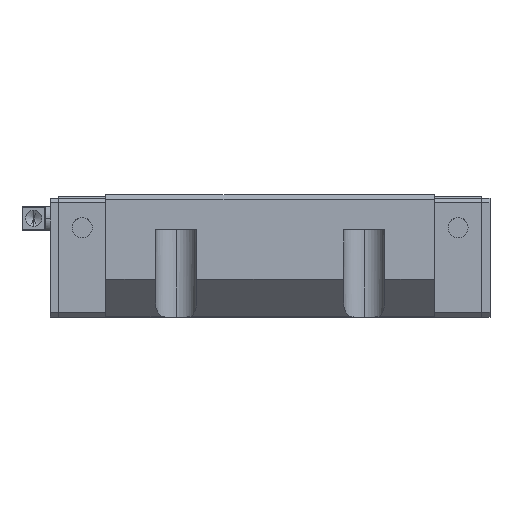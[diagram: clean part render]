
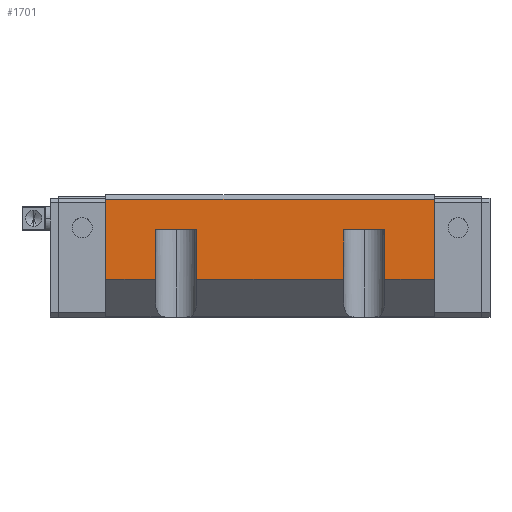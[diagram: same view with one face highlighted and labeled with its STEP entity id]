
A CAD part, top view. The second image highlights one B-rep face of the part: STEP entity #1701.
In plain terms, the highlighted planar face has unit normal (0, 0, 1).
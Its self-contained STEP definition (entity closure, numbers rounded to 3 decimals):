
#120 = CARTESIAN_POINT ( 'NONE',  ( 48.75, 7., 60. ) ) ;
#132 = CARTESIAN_POINT ( 'NONE',  ( -69.9, 20., 60. ) ) ;
#134 = DIRECTION ( 'NONE',  ( -1., 0., 0. ) ) ;
#207 = VERTEX_POINT ( 'NONE', #3703 ) ;
#251 = ORIENTED_EDGE ( 'NONE', *, *, #3471, .F. ) ;
#336 = CARTESIAN_POINT ( 'NONE',  ( 31.25, 7., 60. ) ) ;
#377 = VERTEX_POINT ( 'NONE', #336 ) ;
#474 = DIRECTION ( 'NONE',  ( 1., 0., 0. ) ) ;
#475 = CARTESIAN_POINT ( 'NONE',  ( 69.9, 20., 60. ) ) ;
#592 = EDGE_CURVE ( 'NONE', #2432, #6308, #1208, .T. ) ;
#656 = VERTEX_POINT ( 'NONE', #2377 ) ;
#671 = EDGE_CURVE ( 'NONE', #656, #3894, #3829, .T. ) ;
#767 = DIRECTION ( 'NONE',  ( 1., 0., 0. ) ) ;
#796 = EDGE_LOOP ( 'NONE', ( #6931, #3309, #3995, #5323, #4552, #1320, #6194, #6846, #1755, #251, #1888, #815 ) ) ;
#815 = ORIENTED_EDGE ( 'NONE', *, *, #2695, .T. ) ;
#1034 = PLANE ( 'NONE',  #4634 ) ;
#1208 = LINE ( 'NONE', #4949, #8024 ) ;
#1270 = CARTESIAN_POINT ( 'NONE',  ( -48.75, -14., 60. ) ) ;
#1291 = CARTESIAN_POINT ( 'NONE',  ( 69.9, -14., 60. ) ) ;
#1320 = ORIENTED_EDGE ( 'NONE', *, *, #6301, .T. ) ;
#1393 = LINE ( 'NONE', #4321, #1778 ) ;
#1701 = ADVANCED_FACE ( 'NONE', ( #8341 ), #1034, .T. ) ;
#1755 = ORIENTED_EDGE ( 'NONE', *, *, #671, .F. ) ;
#1778 = VECTOR ( 'NONE', #3604, 1000. ) ;
#1888 = ORIENTED_EDGE ( 'NONE', *, *, #592, .T. ) ;
#2201 = LINE ( 'NONE', #6589, #2565 ) ;
#2331 = EDGE_CURVE ( 'NONE', #8834, #3954, #7353, .T. ) ;
#2374 = EDGE_CURVE ( 'NONE', #4406, #4380, #2201, .T. ) ;
#2377 = CARTESIAN_POINT ( 'NONE',  ( -31.25, 7., 60. ) ) ;
#2432 = VERTEX_POINT ( 'NONE', #3066 ) ;
#2565 = VECTOR ( 'NONE', #767, 1000. ) ;
#2635 = LINE ( 'NONE', #4758, #7102 ) ;
#2684 = LINE ( 'NONE', #7117, #4562 ) ;
#2691 = LINE ( 'NONE', #3612, #3905 ) ;
#2695 = EDGE_CURVE ( 'NONE', #6308, #377, #8016, .T. ) ;
#2848 = CARTESIAN_POINT ( 'NONE',  ( -69.9, -14., 60. ) ) ;
#2964 = LINE ( 'NONE', #5186, #7336 ) ;
#3054 = DIRECTION ( 'NONE',  ( 0., 0., 1. ) ) ;
#3066 = CARTESIAN_POINT ( 'NONE',  ( -31.25, -14., 60. ) ) ;
#3190 = VECTOR ( 'NONE', #4271, 1000. ) ;
#3212 = EDGE_CURVE ( 'NONE', #207, #377, #9010, .T. ) ;
#3309 = ORIENTED_EDGE ( 'NONE', *, *, #6226, .F. ) ;
#3388 = CARTESIAN_POINT ( 'NONE',  ( -69.9, 20., 60. ) ) ;
#3471 = EDGE_CURVE ( 'NONE', #2432, #656, #2691, .T. ) ;
#3604 = DIRECTION ( 'NONE',  ( 0., 1., 0. ) ) ;
#3612 = CARTESIAN_POINT ( 'NONE',  ( -31.25, -14., 60. ) ) ;
#3684 = DIRECTION ( 'NONE',  ( 0., 1., 0. ) ) ;
#3703 = CARTESIAN_POINT ( 'NONE',  ( 48.75, 7., 60. ) ) ;
#3704 = LINE ( 'NONE', #7451, #8795 ) ;
#3829 = LINE ( 'NONE', #6760, #6218 ) ;
#3894 = VERTEX_POINT ( 'NONE', #8512 ) ;
#3905 = VECTOR ( 'NONE', #7845, 1000. ) ;
#3944 = CARTESIAN_POINT ( 'NONE',  ( 31.25, -14., 60. ) ) ;
#3954 = VERTEX_POINT ( 'NONE', #1291 ) ;
#3995 = ORIENTED_EDGE ( 'NONE', *, *, #2331, .T. ) ;
#4257 = CARTESIAN_POINT ( 'NONE',  ( 31.25, -14., 60. ) ) ;
#4271 = DIRECTION ( 'NONE',  ( 1., 0., 0. ) ) ;
#4321 = CARTESIAN_POINT ( 'NONE',  ( -48.75, -14., 60. ) ) ;
#4380 = VERTEX_POINT ( 'NONE', #1270 ) ;
#4406 = VERTEX_POINT ( 'NONE', #2848 ) ;
#4552 = ORIENTED_EDGE ( 'NONE', *, *, #8748, .F. ) ;
#4562 = VECTOR ( 'NONE', #6348, 1000. ) ;
#4634 = AXIS2_PLACEMENT_3D ( 'NONE', #132, #3054, #4731 ) ;
#4731 = DIRECTION ( 'NONE',  ( 0., -1., 0. ) ) ;
#4758 = CARTESIAN_POINT ( 'NONE',  ( -69.9, 20., 60. ) ) ;
#4949 = CARTESIAN_POINT ( 'NONE',  ( -31.25, -14., 60. ) ) ;
#5186 = CARTESIAN_POINT ( 'NONE',  ( 69.9, 20., 60. ) ) ;
#5323 = ORIENTED_EDGE ( 'NONE', *, *, #9450, .F. ) ;
#5488 = CARTESIAN_POINT ( 'NONE',  ( 48.75, -14., 60. ) ) ;
#5522 = VERTEX_POINT ( 'NONE', #3388 ) ;
#6046 = DIRECTION ( 'NONE',  ( 0., -1., 0. ) ) ;
#6194 = ORIENTED_EDGE ( 'NONE', *, *, #2374, .T. ) ;
#6202 = DIRECTION ( 'NONE',  ( 0., -1., 0. ) ) ;
#6218 = VECTOR ( 'NONE', #134, 1000. ) ;
#6226 = EDGE_CURVE ( 'NONE', #8834, #207, #3704, .T. ) ;
#6301 = EDGE_CURVE ( 'NONE', #5522, #4406, #2635, .T. ) ;
#6308 = VERTEX_POINT ( 'NONE', #3944 ) ;
#6348 = DIRECTION ( 'NONE',  ( 1., 0., 0. ) ) ;
#6445 = VERTEX_POINT ( 'NONE', #475 ) ;
#6589 = CARTESIAN_POINT ( 'NONE',  ( -69.9, -14., 60. ) ) ;
#6737 = DIRECTION ( 'NONE',  ( 0., 1., 0. ) ) ;
#6760 = CARTESIAN_POINT ( 'NONE',  ( -31.25, 7., 60. ) ) ;
#6846 = ORIENTED_EDGE ( 'NONE', *, *, #7774, .T. ) ;
#6931 = ORIENTED_EDGE ( 'NONE', *, *, #3212, .F. ) ;
#7102 = VECTOR ( 'NONE', #6202, 1000. ) ;
#7117 = CARTESIAN_POINT ( 'NONE',  ( -69.9, 20., 60. ) ) ;
#7327 = DIRECTION ( 'NONE',  ( -1., 0., 0. ) ) ;
#7336 = VECTOR ( 'NONE', #6046, 1000. ) ;
#7353 = LINE ( 'NONE', #8796, #3190 ) ;
#7451 = CARTESIAN_POINT ( 'NONE',  ( 48.75, -14., 60. ) ) ;
#7583 = VECTOR ( 'NONE', #7327, 1000. ) ;
#7661 = VECTOR ( 'NONE', #3684, 1000. ) ;
#7774 = EDGE_CURVE ( 'NONE', #4380, #3894, #1393, .T. ) ;
#7845 = DIRECTION ( 'NONE',  ( 0., 1., 0. ) ) ;
#8016 = LINE ( 'NONE', #4257, #7661 ) ;
#8024 = VECTOR ( 'NONE', #474, 1000. ) ;
#8341 = FACE_OUTER_BOUND ( 'NONE', #796, .T. ) ;
#8512 = CARTESIAN_POINT ( 'NONE',  ( -48.75, 7., 60. ) ) ;
#8748 = EDGE_CURVE ( 'NONE', #5522, #6445, #2684, .T. ) ;
#8795 = VECTOR ( 'NONE', #6737, 1000. ) ;
#8796 = CARTESIAN_POINT ( 'NONE',  ( 48.75, -14., 60. ) ) ;
#8834 = VERTEX_POINT ( 'NONE', #5488 ) ;
#9010 = LINE ( 'NONE', #120, #7583 ) ;
#9450 = EDGE_CURVE ( 'NONE', #6445, #3954, #2964, .T. ) ;
